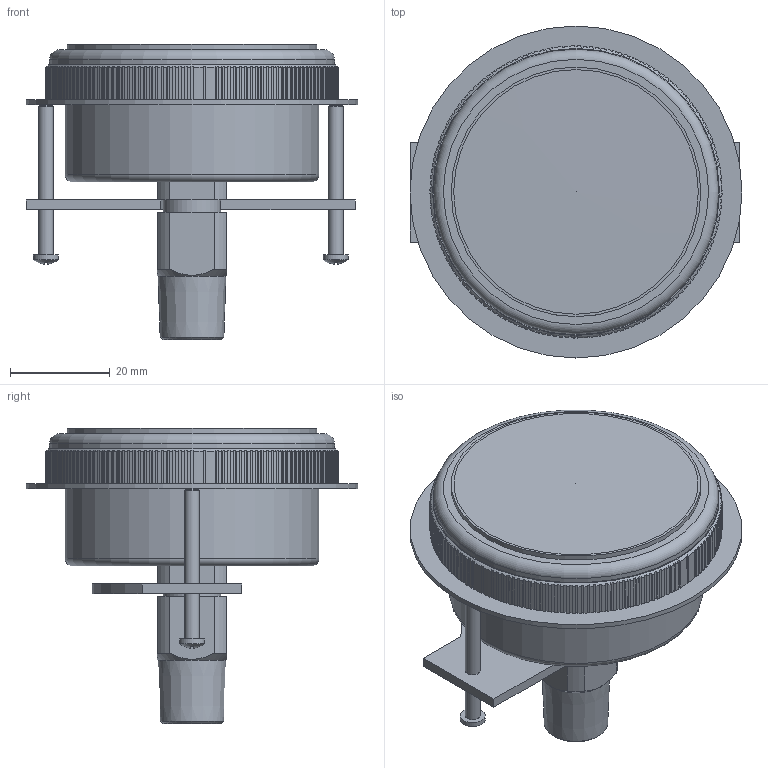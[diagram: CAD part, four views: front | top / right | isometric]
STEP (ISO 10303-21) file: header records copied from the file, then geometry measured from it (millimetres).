
FILE_DESCRIPTION(/* description */ (''),/* implementation_level */ '2;1');
FILE_NAME(/* name */ 'P800_50PI_CENTER BACK, FLUSH MOUNT_NPT(M).stp',/* time_stamp */ '2025-03-27T09:29:53+09:00',/* author */ ('wise-209'),/* organization */ (''),/* preprocessor_version */ 'ST-DEVELOPER v19.2',/* originating_system */ 'Autodesk Inventor 2024',/* authorisation */ '');
FILE_SCHEMA (('AUTOMOTIVE_DESIGN { 1 0 10303 214 3 1 1 }'));
Length unit declared in the file: millimetre
Products named in the file (6): P810_50mm_I Type_SF; COVER; RING; BRACKET; SCREW; P830_50mm_F Type_14in NPT_SHANK
Assembly tree (6 placements, depth 2):
  P810_50mm_I Type_SF
    COVER
    RING
    BRACKET
    SCREW  x2
    P830_50mm_F Type_14in NPT_SHANK
Bounding box: 66.5 x 66.5 x 59.18 mm (x, y, z)
Volume: 72779.5 mm3; surface area: 23560.8 mm2
Topology: 7 solids, 7 shells, 678 faces, 1967 edges, 1310 vertices
Faces by surface type: plane 497, cylinder 167, cone 10, torus 2, sphere 2
Full cylindrical faces by diameter (mm): 3 x5, 5 x2, 11.5 x1, 50 x1, 50.8 x1, 51 x1, 57.1 x1, 66.5 x1
Entity records: 21752 total; most frequent: CARTESIAN_POINT 4167, ORIENTED_EDGE 3836, DIRECTION 3476, EDGE_CURVE 1918, LINE 1402, VECTOR 1402, VERTEX_POINT 1278, AXIS2_PLACEMENT_3D 1037
